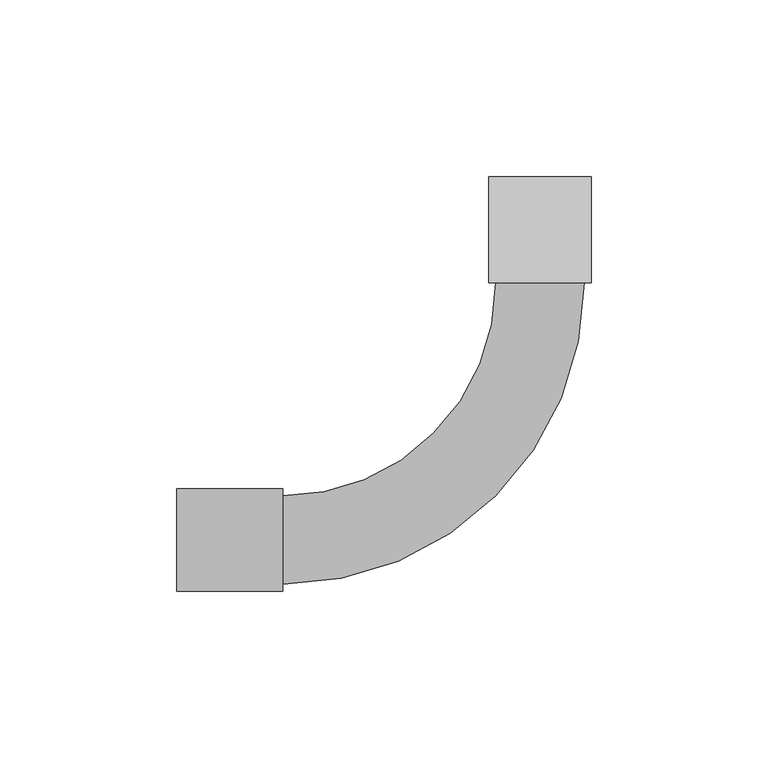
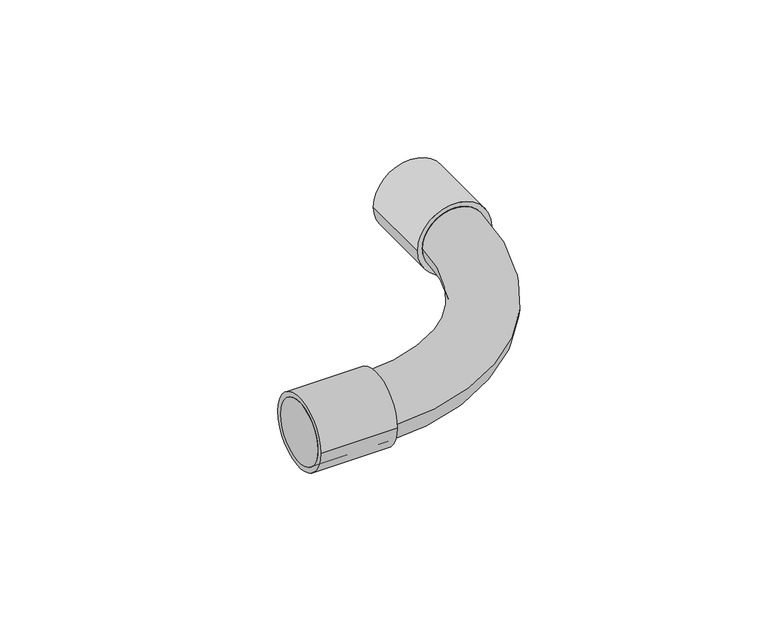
"""IFC4 building model written with IfcOpenShell, lengths in millimetres: cable carrier fitting geometry, Поворот на 90 труба-труба CRSG : Поворот на 90 труба-труба CRSG."""

from ifc_helpers import new_model, si_unit, point, frame, origin, origin_2d, place, context, project, spatial, circle_curve, ellipse_curve, trimmed, segment, composite_curve, outline, extrude, source, transform, mapped, element, save
from ifc_brep_helpers import plane_surface, cylinder_surface, revolved_surface, advanced_brep


def cable_carrier_fitting_e2d7f6ec(model_context):
    return source(origin(), model_context, "Body", "SolidModel", [
        advanced_brep(
        [(-102.8954, -12.4968, 0.0), (-102.8954, 12.4968, 0.0), (-72.898, -12.4968, 0.0), (-72.898, 12.4968, 0.0), (-12.4968, 72.898, 0.0), (12.4968, 72.898, 0.0), (12.4968, 102.8954, 0.0), (-12.4968, 102.8954, 0.0)],
        [
            (0, 1, circle_curve(frame((-102.8954, 0.0, 0.0), z_axis=(-1.0, 0.0, 0.0), x_axis=(0.0, 1.0, 0.0)), 12.4968)),
            (1, 0, circle_curve(frame((-102.8954, 0.0, 0.0), z_axis=(-1.0, 0.0, 0.0), x_axis=(0.0, 1.0, 0.0)), 12.4968)),
            (0, 2),
            (2, 3, circle_curve(frame((-72.898, 0.0, 0.0), z_axis=(-1.0, 0.0, 0.0), x_axis=(0.0, 1.0, 0.0)), 12.4968)),
            (3, 1),
            (3, 2, circle_curve(frame((-72.898, 0.0, 0.0), z_axis=(-1.0, 0.0, 0.0), x_axis=(0.0, 1.0, 0.0)), 12.4968)),
            (4, 3, circle_curve(frame((-72.898, 72.898, 0.0), z_axis=(0.0, 0.0, -1.0), x_axis=(0.0, -1.0, 0.0)), 60.4012)),
            (2, 5, circle_curve(frame((-72.898, 72.898, 0.0), z_axis=(0.0, 0.0, 1.0), x_axis=(0.0, -1.0, 0.0)), 85.3948)),
            (5, 4, circle_curve(frame((0.0, 72.898, 0.0), z_axis=(0.0, -1.0, 0.0), x_axis=(-1.0, 0.0, 0.0)), 12.4968)),
            (4, 5, circle_curve(frame((0.0, 72.898, 0.0), z_axis=(0.0, -1.0, 0.0), x_axis=(-1.0, 0.0, 0.0)), 12.4968)),
            (6, 7, circle_curve(frame((0.0, 102.8954, 0.0), z_axis=(0.0, 1.0, 0.0), x_axis=(-1.0, 0.0, 0.0)), 12.4968)),
            (7, 6, circle_curve(frame((0.0, 102.8954, 0.0), z_axis=(0.0, 1.0, 0.0), x_axis=(-1.0, 0.0, 0.0)), 12.4968)),
            (5, 6),
            (7, 4),
        ],
        [
            plane_surface(frame((-102.8954, 0.0, 0.0), z_axis=(-1.0, 0.0, 0.0), x_axis=(0.0, 0.0, 1.0))),
            cylinder_surface(frame((-102.8954, 0.0, 0.0), z_axis=(-1.0, 0.0, 0.0), x_axis=(0.0, 1.0, 0.0)), 12.4968),
            revolved_surface(trimmed(ellipse_curve(frame((-72.898, 0.0, 0.0), z_axis=(-1.0, 0.0, 0.0), x_axis=(0.0, 1.0, 0.0)), 12.4968, 12.4968), [point((-72.898, -12.4968, 0.0))], [point((-72.898, 12.4968, 0.0))], True, "CARTESIAN"), (-72.898, 72.898, 0.0), (0.0, 0.0, 1.0)),
            revolved_surface(trimmed(ellipse_curve(frame((-72.898, 0.0, 0.0), z_axis=(-1.0, 0.0, 0.0), x_axis=(0.0, 1.0, 0.0)), 12.4968, 12.4968), [point((-72.898, 12.4968, 0.0))], [point((-72.898, -12.4968, 0.0))], True, "CARTESIAN"), (-72.898, 72.898, 0.0), (0.0, 0.0, 1.0)),
            plane_surface(frame((0.0, 102.8954, 0.0), z_axis=(0.0, 1.0, 0.0), x_axis=(0.0, 0.0, 1.0))),
            cylinder_surface(frame((0.0, 72.898, 0.0), z_axis=(0.0, -1.0, 0.0), x_axis=(-1.0, 0.0, 0.0)), 12.4968),
        ],
        [
            (0, [[1, 2]]),
            (1, [[-1, 3, 4, 5]]),
            (1, [[-2, -5, 6, -3]]),
            (2, [[7, -4, 8, 9]]),
            (3, [[-8, -6, -7, 10]]),
            (4, [[11, 12]]),
            (5, [[-9, 13, -12, 14]]),
            (5, [[-10, -14, -11, -13]]),
        ],
    ),
        extrude(outline(composite_curve([segment(trimmed(circle_curve(origin_2d(), 14.5), [point((-14.5, 0.0))], [point((14.5, 0.0))], False, "CARTESIAN"), True, "CONTINUOUS"), segment(trimmed(circle_curve(origin_2d(), 14.5), [point((14.5, 0.0))], [point((-14.5, 0.0))], False, "CARTESIAN"), True, "CONTINUOUS")], self_intersect=False)), frame((-102.8954, 0.0, 0.0), z_axis=(1.0, 0.0, 0.0), x_axis=(0.0, 1.0, 0.0)), (0.0, 0.0, 1.0), 29.9974),
        extrude(outline(composite_curve([segment(trimmed(circle_curve(origin_2d(), 14.5), [point((0.0, 14.5))], [point((0.0, -14.5))], False, "CARTESIAN"), True, "CONTINUOUS"), segment(trimmed(circle_curve(origin_2d(), 14.5), [point((0.0, -14.5))], [point((0.0, 14.5))], False, "CARTESIAN"), True, "CONTINUOUS")], self_intersect=False)), frame((0.0, 72.898, 0.0), z_axis=(0.0, 1.0, 0.0), x_axis=(0.0, 0.0, 1.0)), (0.0, 0.0, 1.0), 29.9974),
    ])


if __name__ == "__main__":
    model = new_model("IFC4")
    model_context = context("Model", 3, world=origin())
    ifc_project = project(units=[si_unit("LENGTHUNIT", "METRE", prefix="MILLI")], contexts=[model_context])
    site = spatial("IfcSite", under=ifc_project)
    building = spatial("IfcBuilding", under=site)
    placement = place(None, origin())
    cable_carrier_fitting_shape = cable_carrier_fitting_e2d7f6ec(model_context)
    element("IfcCableCarrierFitting", 1, ObjectType="Поворот на 90 труба-труба CRSG : Поворот на 90 труба-труба CRSG", at=placement, inside=building, context=model_context, shape_type="MappedRepresentation", body=[
        mapped(cable_carrier_fitting_shape, transform((0.0, 0.0, 0.0), x_axis=(1.0, 0.0, 0.0), y_axis=(0.0, 1.0, 0.0), z_axis=(0.0, 0.0, 1.0))),
    ])
    save(model, "model.ifc")
